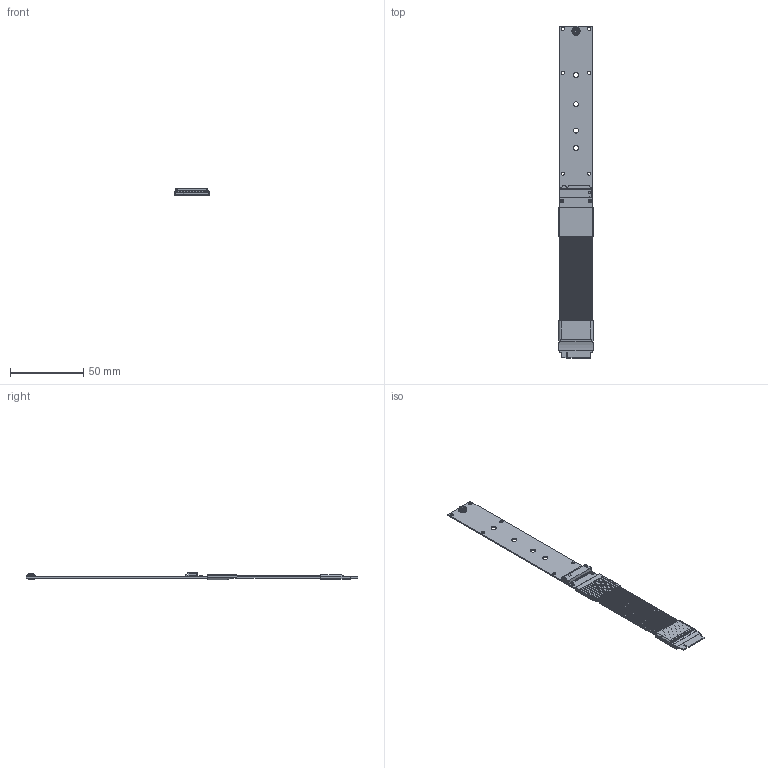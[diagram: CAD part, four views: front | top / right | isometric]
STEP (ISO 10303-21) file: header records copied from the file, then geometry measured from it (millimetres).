
FILE_DESCRIPTION(('Open CASCADE Model'),'2;1');
FILE_NAME('Open CASCADE Shape Model','2023-03-11T12:14:42',('Author'),( 'Open CASCADE'),'Open CASCADE STEP processor 7.5','Open CASCADE 7.5' ,'Unknown');
FILE_SCHEMA(('AUTOMOTIVE_DESIGN { 1 0 10303 214 1 1 1 1 }'));
Length unit declared in the file: millimetre
Products named in the file (25): PCB; Board; Open CASCADE STEP translator 7.5 2.1.1; Designator59; C0603_060; CN1; c-1-2199119-3-a1-3d.stp; Designator58; Designator57; LED AP1608; Designator46; 0603_RES; Capsule; Encapsulation; TopCover; Free-Models; R4S HST 20220711; 5.0 24 PIN SI R4 20221101; 5.0 20 PIN SI 20221101; M2 nuc_RGB3326705; G0042; G0030_RGB12967653
Assembly tree (31 placements, depth 4):
  PCB
    Board
      Open CASCADE STEP translator 7.5 2.1.1
    Designator59
      C0603_060
      C0603_060
      C0603_060
    CN1
      c-1-2199119-3-a1-3d.stp  x2
      c-1-2199119-3-a1-3d.stp
    Designator58
      C0603_060
      C0603_060
      C0603_060
    Designator57
      LED AP1608
    Designator46
      0603_RES
        Capsule
        Encapsulation  x2
        TopCover
    Free-Models
      R4S HST 20220711  x2
      5.0 24 PIN SI R4 20221101
      5.0 20 PIN SI 20221101
      M2 nuc_RGB3326705
      G0042  x2
      G0030_RGB12967653
Bounding box: 23.6 x 227.05 x 4.99 mm (x, y, z)
Volume: 5813.2 mm3; surface area: 37382.4 mm2
Topology: 251 solids, 251 shells, 8217 faces, 21662 edges, 14142 vertices
Faces by surface type: plane 4946, cylinder 2688, torus 358, bspline 192, cone 17, sphere 16
Full cylindrical faces by diameter (mm): 0.9 x2, 1.1 x1, 1.6 x1, 2 x1, 2.2 x6, 3.2 x3, 3.3 x3, 3.4 x6, 4.1 x1, 5 x1, 5.76 x2
Entity records: 257596 total; most frequent: CARTESIAN_POINT 43480, DIRECTION 34280, ORIENTED_EDGE 33836, EDGE_CURVE 16918, LINE 11460, VECTOR 11460, AXIS2_PLACEMENT_3D 11410, VERTEX_POINT 11005
